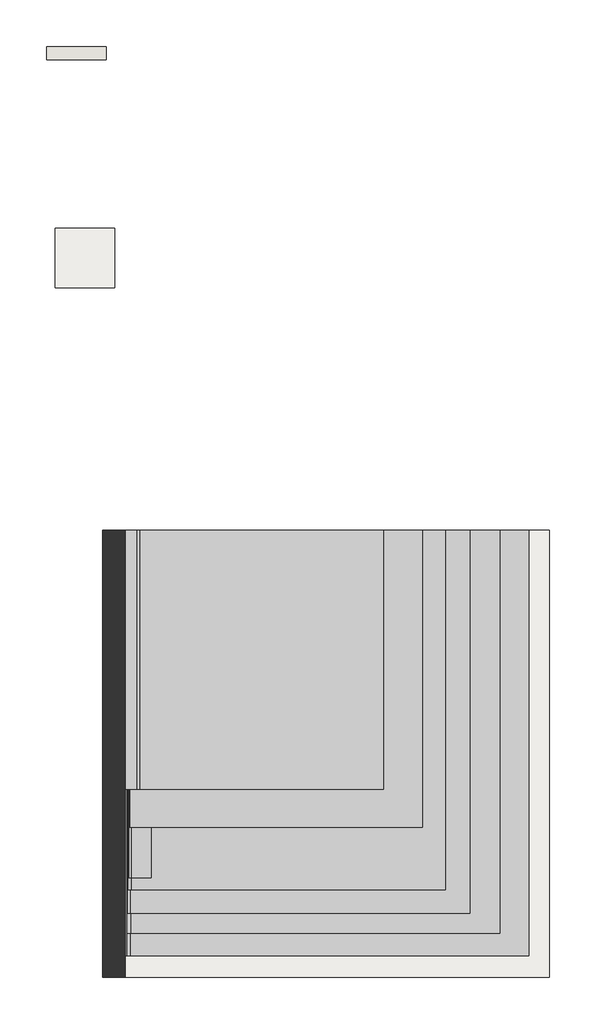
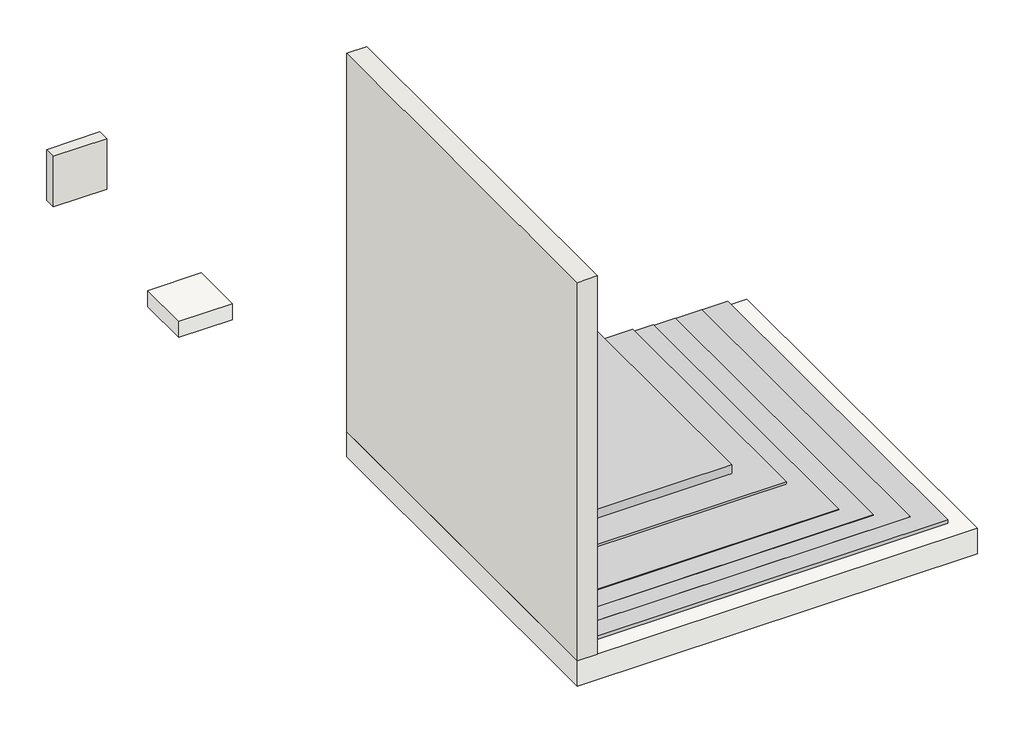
# One storey: 2 slabs, 2 walls, 1 proxy.
"""IFC4 building model written with IfcOpenShell, lengths in millimetres."""

import ifcopenshell
import ifcopenshell.guid

model = None  # the IFC model being written
_history = None  # IfcOwnerHistory: only IFC2X3 demands one
_inside = {}  # id of a spatial element -> (the spatial element, [elements in it])
_under = {}  # id of a project, library or spatial element -> (it, [spatial elements below it])
_declared = {}  # id of a project -> (the project, [libraries it declares])
_typed = {}  # id of a type object -> (the type object, [elements of that type])
_made_of = {}  # id of a material, layer set ... -> (it, [elements and type objects made of it])


def new_model(schema):
    """Start an empty IFC model of exactly this schema.

    Asked for "IFC4X3", IfcOpenShell would pick the latest addendum, in which some entities
    have other attributes; the version numbers below select the first issue.
    IFC2X3 requires an IfcOwnerHistory on every rooted entity: one is made here for all.
    """
    global model, _history
    if schema == "IFC4X3":
        model = ifcopenshell.file(schema_version=(4, 3, 0, 0))
    else:
        model = ifcopenshell.file(schema=schema)
    _inside.clear()
    _under.clear()
    _declared.clear()
    _typed.clear()
    _made_of.clear()
    _history = None
    if model.schema == "IFC2X3":
        org = make("IfcOrganization", Name="unknown")
        user = make(
            "IfcPersonAndOrganization",
            ThePerson=make("IfcPerson", FamilyName="unknown"),
            TheOrganization=org,
        )
        app = make(
            "IfcApplication",
            ApplicationDeveloper=org,
            Version="unknown",
            ApplicationFullName="unknown",
            ApplicationIdentifier="unknown",
        )
        _history = make(
            "IfcOwnerHistory",
            OwningUser=user,
            OwningApplication=app,
            ChangeAction="ADDED",
            CreationDate=0,
        )
    return model


def make(cls, **values):
    """One entity of the class cls with the attributes given. An attribute that is None is left unset."""
    return model.create_entity(
        cls, **{name: value for name, value in values.items() if value is not None}
    )


def rooted(cls, **values):
    """An entity with a GlobalId (a new one), such as an element, a storey or a relation."""
    return make(cls, GlobalId=ifcopenshell.guid.new(), OwnerHistory=_history, **values)


def si_unit(unit_type, name, prefix=None):
    """IfcSIUnit, for example si_unit("LENGTHUNIT", "METRE", prefix="MILLI")."""
    return make("IfcSIUnit", UnitType=unit_type, Prefix=prefix, Name=name)


def assignment(units):
    """IfcUnitAssignment: the units of a project."""
    return None if units is None else make("IfcUnitAssignment", Units=units)


def point(xyz):
    """IfcCartesianPoint."""
    return None if xyz is None else make("IfcCartesianPoint", Coordinates=xyz)


def direction(xyz):
    """IfcDirection."""
    return None if xyz is None else make("IfcDirection", DirectionRatios=xyz)


def frame(location, z_axis=None, x_axis=None):
    """IfcAxis2Placement3D, a coordinate frame: its origin and axes. An axis left out is left unset."""
    return make(
        "IfcAxis2Placement3D",
        Location=point(location),
        Axis=direction(z_axis),
        RefDirection=direction(x_axis),
    )


def frame_2d(location, x_axis=None):
    """IfcAxis2Placement2D, a coordinate frame in the plane: its origin and x axis."""
    return make(
        "IfcAxis2Placement2D", Location=point(location), RefDirection=direction(x_axis)
    )


def origin():
    """The frame at (0, 0, 0) with its axes left unset."""
    return frame((0.0, 0.0, 0.0))


def place(relative_to, where):
    """IfcLocalPlacement: puts the frame where relative to a parent placement (None: the world)."""
    return make(
        "IfcLocalPlacement", PlacementRelTo=relative_to, RelativePlacement=where
    )


def context(
    kind, dimensions, precision=None, world=None, true_north=None, identifier=None
):
    """IfcGeometricRepresentationContext, for example the 3D "Model" context."""
    return make(
        "IfcGeometricRepresentationContext",
        ContextIdentifier=identifier,
        ContextType=kind,
        CoordinateSpaceDimension=dimensions,
        Precision=precision,
        WorldCoordinateSystem=world,
        TrueNorth=true_north,
    )


def project(units=None, contexts=None):
    """IfcProject with its units and contexts."""
    return rooted(
        "IfcProject",
        Name="project",
        RepresentationContexts=contexts,
        UnitsInContext=assignment(units),
    )


def spatial(cls, under=None, at=None, **own):
    """A site, building, storey or space (cls), placed at a placement, below another one or the project."""
    s = rooted(cls, ObjectPlacement=at, **own)
    if under is not None:
        _under.setdefault(under.id(), (under, []))[1].append(s)
    return s


def polyline(points):
    """IfcPolyline through the points."""
    return make("IfcPolyline", Points=[point(p) for p in points])


def circle_curve(where, radius):
    """IfcCircle in the frame where."""
    return make("IfcCircle", Position=where, Radius=radius)


def trimmed(basis, trim1, trim2, sense, master):
    """IfcTrimmedCurve: the piece of a basis curve between two trims."""
    return make(
        "IfcTrimmedCurve",
        BasisCurve=basis,
        Trim1=trim1,
        Trim2=trim2,
        SenseAgreement=sense,
        MasterRepresentation=master,
    )


def segment(curve, same_sense, transition):
    """IfcCompositeCurveSegment."""
    return make(
        "IfcCompositeCurveSegment",
        Transition=transition,
        SameSense=same_sense,
        ParentCurve=curve,
    )


def composite_curve(segments, self_intersect=None):
    """IfcCompositeCurve: segments joined end to end."""
    return make("IfcCompositeCurve", Segments=segments, SelfIntersect=self_intersect)


def outline(outer, holes=None, kind="AREA"):
    """IfcArbitraryClosedProfileDef: a profile drawn as a closed curve; with holes, ...WithVoids."""
    if holes is None:
        return make("IfcArbitraryClosedProfileDef", ProfileType=kind, OuterCurve=outer)
    return make(
        "IfcArbitraryProfileDefWithVoids",
        ProfileType=kind,
        OuterCurve=outer,
        InnerCurves=holes,
    )


def extrude(swept, where, along, depth):
    """IfcExtrudedAreaSolid: the profile swept, set in the frame where, extruded along a direction by depth."""
    return make(
        "IfcExtrudedAreaSolid",
        SweptArea=swept,
        Position=where,
        ExtrudedDirection=direction(along),
        Depth=depth,
    )


def shape(context_of_items, identifier, shape_type, items):
    """IfcShapeRepresentation: the items that make up one representation, for example the "Body"."""
    return make(
        "IfcShapeRepresentation",
        ContextOfItems=context_of_items,
        RepresentationIdentifier=identifier,
        RepresentationType=shape_type,
        Items=items,
    )


def source(mapping_origin, context_of_items, identifier, shape_type, items):
    """IfcRepresentationMap: a shape defined once, which mapped items show again and again."""
    return make(
        "IfcRepresentationMap",
        MappingOrigin=mapping_origin,
        MappedRepresentation=shape(context_of_items, identifier, shape_type, items),
    )


def transform(
    local_origin,
    x_axis=None,
    y_axis=None,
    z_axis=None,
    scale=None,
    scale2=None,
    scale3=None,
    uniform=True,
):
    """IfcCartesianTransformationOperator3D, or its non-uniform kind. x_axis, y_axis, z_axis: its Axis1, 2, 3."""
    if uniform:
        return make(
            "IfcCartesianTransformationOperator3D",
            Axis1=direction(x_axis),
            Axis2=direction(y_axis),
            LocalOrigin=point(local_origin),
            Scale=scale,
            Axis3=direction(z_axis),
        )
    return make(
        "IfcCartesianTransformationOperator3DnonUniform",
        Axis1=direction(x_axis),
        Axis2=direction(y_axis),
        LocalOrigin=point(local_origin),
        Scale=scale,
        Axis3=direction(z_axis),
        Scale2=scale2,
        Scale3=scale3,
    )


def mapped(mapping_source, mapping_target):
    """IfcMappedItem: shows the shape of a source again, moved by a transform."""
    return make(
        "IfcMappedItem", MappingSource=mapping_source, MappingTarget=mapping_target
    )


def made_of(thing, what):
    """Note that an element or type object is made of a material, layer set ...; save() writes the relation."""
    if what is not None:
        _made_of.setdefault(what.id(), (what, []))[1].append(thing)
    return thing


def element(
    cls,
    number,
    at=None,
    inside=None,
    cuts=None,
    type_object=None,
    material=None,
    context=None,
    identifier="Body",
    shape_type=None,
    held_by="IfcProductDefinitionShape",
    body=None,
    shapes=None,
    **own,
):
    """One element of the class cls, such as IfcWall. Its Tag is "e" and its number.

    at: its placement. inside: the storey or other place that contains it. cuts: it is an
    opening in that element (IfcRelVoidsElement). A single representation is given by context,
    identifier, shape_type and body (its items); several are given by shapes. held_by: the class
    of the entity that holds the representations. save() writes the other relations.
    """
    e = rooted(cls, Tag="e%d" % number, ObjectPlacement=at, **own)
    if body is not None:
        shapes = [shape(context, identifier, shape_type, body)]
    if shapes is not None:
        e.Representation = make(held_by, Representations=shapes)
    if inside is not None:
        _inside.setdefault(inside.id(), (inside, []))[1].append(e)
    if cuts is not None:
        rooted(
            "IfcRelVoidsElement", RelatingBuildingElement=cuts, RelatedOpeningElement=e
        )
    if type_object is not None:
        _typed.setdefault(type_object.id(), (type_object, []))[1].append(e)
    return made_of(e, material)


def aggregate(whole, parts):
    """IfcRelAggregates: a whole, such as a stair, and the parts it consists of."""
    return rooted("IfcRelAggregates", RelatingObject=whole, RelatedObjects=parts)


def save(model, path):
    """Write the relations noted so far, then the file.

    IfcRelAggregates (storeys below a building ...), IfcRelContainedInSpatialStructure (elements
    in a storey), IfcRelDefinesByType, IfcRelAssociatesMaterial and IfcRelDeclares: one each for
    every whole, place, type object, material and project.
    """
    for whole, parts in _under.values():
        aggregate(whole, parts)
    for where, things in _inside.values():
        rooted(
            "IfcRelContainedInSpatialStructure",
            RelatedElements=things,
            RelatingStructure=where,
        )
    for kind, things in _typed.values():
        rooted("IfcRelDefinesByType", RelatedObjects=things, RelatingType=kind)
    for what, things in _made_of.values():
        rooted("IfcRelAssociatesMaterial", RelatedObjects=things, RelatingMaterial=what)
    for by, libraries in _declared.values():
        rooted("IfcRelDeclares", RelatingContext=by, RelatedDefinitions=libraries)
    model.write(path)


def generic_models_9ae79c3e(model_context):
    return source(origin(), model_context, "Body", "SweptSolid", [
        extrude(outline(polyline([(-351.9704105, 145.8700195), (-341.9704105, 145.8700195), (-341.9704105, -2708.2416892), (-351.9704105, -2708.2416892), (-351.9704105, 145.8700195)])), frame((0.0, 0.0, -2.523798), z_axis=(0.0, 0.0, 1.0), x_axis=(1.0, 0.0, 0.0)), (0.0, 0.0, 1.0), 475.2746515),
        extrude(outline(polyline([(-271.9704105, 145.8700195), (-251.9704105, 145.8700195), (-251.9704105, -1591.3980536), (-271.9704105, -1591.3980536), (-271.9704105, 145.8700195)])), frame((0.0, 0.0, 107.3018705), z_axis=(0.0, 0.0, 1.0), x_axis=(1.0, 0.0, 0.0)), (0.0, 0.0, 1.0), 20.0),
        extrude(outline(composite_curve([segment(polyline([(127.3018705, 1383.8408996), (127.3018705, -251.9704105), (107.3018705, -251.9704105), (107.3018705, -271.9704105), (127.3018705, -271.9704105), (1104.1279924, -271.9704105), (1104.1279924, -351.9704105), (472.7508535, -351.9704105), (472.7508535, -341.9704105), (464.711346, -333.930903), (455.5276938, -333.930903), (455.5276938, -336.9591004), (305.8779147, -336.9591004)]), True, "CONTINUOUS"), segment(trimmed(circle_curve(frame_2d((297.476202, -341.9120978)), 9.7529974), [point((305.8779147, -336.9591004))], [point((297.476202, -332.1591004))], True, "CARTESIAN"), True, "CONTINUOUS"), segment(polyline([(297.476202, -332.1591004), (170.751438, -332.1591004)]), True, "CONTINUOUS"), segment(trimmed(circle_curve(frame_2d((162.3497254, -337.1120978)), 9.7529974), [point((170.751438, -332.1591004))], [point((162.3497254, -327.3591004))], True, "CARTESIAN"), True, "CONTINUOUS"), segment(polyline([(162.3497254, -327.3591004), (57.3018705, -327.3591004), (57.3018705, 1383.8408996), (127.3018705, 1383.8408996)]), True, "CONTINUOUS")], self_intersect=False)), frame((0.0, -1591.3980536, 0.0), z_axis=(0.0, 1.0, 0.0), x_axis=(0.0, 0.0, 1.0)), (0.0, 0.0, 1.0), 1737.2680731),
        extrude(outline(composite_curve([segment(polyline([(57.3018705, 1643.8408996), (57.3018705, -327.3694237)]), True, "CONTINUOUS"), segment(trimmed(circle_curve(frame_2d((57.476202, -311.9704105)), 15.4), [point((57.3018705, -327.3694237))], [point((42.1018705, -311.0816306))], False, "CARTESIAN"), True, "CONTINUOUS"), segment(polyline([(42.1018705, -311.0816306), (42.1018705, -175.9704105), (37.3018705, -175.9704105), (37.3018705, 1643.8408996), (57.3018705, 1643.8408996)]), True, "CONTINUOUS")], self_intersect=False)), frame((0.0, -1847.0207684, 0.0), z_axis=(0.0, 1.0, 0.0), x_axis=(0.0, 0.0, 1.0)), (0.0, 0.0, 1.0), 1992.8907879),
        extrude(outline(polyline([(462.5018705, -336.9591004), (455.5276938, -336.9591004), (455.5276938, -333.930903), (464.711346, -333.930903), (472.7508535, -341.9704105), (467.5131806, -341.9704105), (462.5018705, -336.9591004)])), frame((0.0, -2191.1266924, 0.0), z_axis=(0.0, 1.0, 0.0), x_axis=(0.0, 0.0, 1.0)), (0.0, 0.0, 1.0), 2336.9967119),
        extrude(outline(composite_curve([segment(polyline([(162.3497254, -322.3591004), (56.8860974, -322.3591004), (56.8860974, -321.5591004), (162.3497254, -321.5591004)]), True, "CONTINUOUS"), segment(trimmed(circle_curve(frame_2d((162.3497254, -337.1120978)), 15.5529974), [point((162.3497254, -321.5591004))], [point((173.5866634, -326.3591004))], False, "CARTESIAN"), True, "CONTINUOUS"), segment(polyline([(173.5866634, -326.3591004), (297.476202, -326.3591004)]), True, "CONTINUOUS"), segment(trimmed(circle_curve(frame_2d((297.476202, -341.9120978)), 15.5529974), [point((297.476202, -326.3591004))], [point((308.71314, -331.1591004))], False, "CARTESIAN"), True, "CONTINUOUS"), segment(polyline([(308.71314, -331.1591004), (968.71314, -331.1591004)]), True, "CONTINUOUS"), segment(trimmed(circle_curve(frame_2d((957.8319889, -349.0899304)), 20.9741296), [point((968.71314, -331.1591004))], [point((975.4017315, -337.6348766))], False, "CARTESIAN"), True, "CONTINUOUS"), segment(polyline([(975.4017315, -337.6348766), (1098.9341396, -337.6348766), (1098.9341396, -338.4348766), (974.9628188, -338.4348766)]), True, "CONTINUOUS"), segment(trimmed(circle_curve(frame_2d((957.8319889, -349.0899304)), 20.1741296), [point((974.9628188, -338.4348766))], [point((968.4870426, -331.9591004))], True, "CARTESIAN"), True, "CONTINUOUS"), segment(polyline([(968.4870426, -331.9591004), (308.3660494, -331.9591004)]), True, "CONTINUOUS"), segment(trimmed(circle_curve(frame_2d((297.476202, -341.9120978)), 14.7529974), [point((308.3660494, -331.9591004))], [point((297.476202, -327.1591004))], True, "CARTESIAN"), True, "CONTINUOUS"), segment(polyline([(297.476202, -327.1591004), (173.2395727, -327.1591004)]), True, "CONTINUOUS"), segment(trimmed(circle_curve(frame_2d((162.3497254, -337.1120978)), 14.7529974), [point((173.2395727, -327.1591004))], [point((162.3497254, -322.3591004))], True, "CARTESIAN"), True, "CONTINUOUS")], self_intersect=False)), frame((0.0, -1847.0207684, 0.0), z_axis=(0.0, 1.0, 0.0), x_axis=(0.0, 0.0, 1.0)), (0.0, 0.0, 1.0), 1992.8907879),
        extrude(outline(composite_curve([segment(polyline([(38.1018705, -310.9727746), (38.1018705, -175.9704105), (42.1018705, -175.9704105), (42.1018705, -311.0816306)]), True, "CONTINUOUS"), segment(trimmed(circle_curve(frame_2d((57.476202, -311.9704105)), 15.4), [point((42.1018705, -311.0816306))], [point((56.8860974, -327.3591004))], True, "CARTESIAN"), True, "CONTINUOUS"), segment(polyline([(56.8860974, -327.3591004), (162.3497254, -327.3591004)]), True, "CONTINUOUS"), segment(trimmed(circle_curve(frame_2d((162.3497254, -337.1120978)), 9.7529974), [point((162.3497254, -327.3591004))], [point((170.751438, -332.1591004))], False, "CARTESIAN"), True, "CONTINUOUS"), segment(polyline([(170.751438, -332.1591004), (297.476202, -332.1591004)]), True, "CONTINUOUS"), segment(trimmed(circle_curve(frame_2d((297.476202, -341.9120978)), 9.7529974), [point((297.476202, -332.1591004))], [point((305.8779147, -336.9591004))], False, "CARTESIAN"), True, "CONTINUOUS"), segment(polyline([(305.8779147, -336.9591004), (462.5018705, -336.9591004), (466.5018705, -340.9591004), (305.9344646, -340.9591004)]), True, "CONTINUOUS"), segment(trimmed(circle_curve(frame_2d((305.9344646, -336.7879323)), 4.1711681), [point((305.9344646, -340.9591004))], [point((302.1717762, -338.5881601))], False, "CARTESIAN"), True, "CONTINUOUS"), segment(trimmed(circle_curve(frame_2d((297.476202, -341.9120978)), 5.7529974), [point((302.1717762, -338.5881601))], [point((297.476202, -336.1591004))], True, "CARTESIAN"), True, "CONTINUOUS"), segment(polyline([(297.476202, -336.1591004), (170.8079879, -336.1591004)]), True, "CONTINUOUS"), segment(trimmed(circle_curve(frame_2d((170.8079879, -331.9879323)), 4.1711681), [point((170.8079879, -336.1591004))], [point((167.0452996, -333.7881601))], False, "CARTESIAN"), True, "CONTINUOUS"), segment(trimmed(circle_curve(frame_2d((162.3497254, -337.1120978)), 5.7529974), [point((167.0452996, -333.7881601))], [point((162.3497254, -331.3591004))], True, "CARTESIAN"), True, "CONTINUOUS"), segment(polyline([(162.3497254, -331.3591004), (56.8138545, -331.3591004)]), True, "CONTINUOUS"), segment(trimmed(circle_curve(frame_2d((57.476202, -311.9704105)), 19.4), [point((56.8138545, -331.3591004))], [point((38.1018705, -310.9727746))], False, "CARTESIAN"), True, "CONTINUOUS")], self_intersect=False)), frame((0.0, -2184.7269109, 0.0), z_axis=(0.0, 1.0, 0.0), x_axis=(0.0, 0.0, 1.0)), (0.0, 0.0, 1.0), 2330.5969304),
        extrude(outline(composite_curve([segment(polyline([(-311.9704105, 27.476202), (2358.0295895, 27.476202), (2358.0295895, -2.523798), (-341.9704105, -2.523798), (-341.9704105, 57.476202)]), True, "CONTINUOUS"), segment(trimmed(circle_curve(frame_2d((-311.9704105, 57.476202)), 30.0), [point((-341.9704105, 57.476202))], [point((-311.9704105, 27.476202))], True, "CARTESIAN"), True, "CONTINUOUS")], self_intersect=False)), frame((0.0, 145.8700195, 0.0), z_axis=(0.0, -1.0, 0.0), x_axis=(1.0, 0.0, 0.0)), (0.0, 0.0, 1.0), 2854.1117086),
        extrude(outline(composite_curve([segment(polyline([(56.6663512, -340.9591004), (466.5054998, -340.9591004), (466.5054998, -341.9704105), (57.476202, -341.9704105)]), True, "CONTINUOUS"), segment(trimmed(circle_curve(frame_2d((57.476202, -311.9704105)), 30.0), [point((57.476202, -341.9704105))], [point((27.476202, -311.9704105))], False, "CARTESIAN"), True, "CONTINUOUS"), segment(polyline([(27.476202, -311.9704105), (27.476202, 2163.8408996), (28.5018705, 2163.8408996), (28.5018705, -313.1902924)]), True, "CONTINUOUS"), segment(trimmed(circle_curve(frame_2d((57.476202, -311.9704105)), 29.0), [point((28.5018705, -313.1902924))], [point((56.6663512, -340.9591004))], True, "CARTESIAN"), True, "CONTINUOUS")], self_intersect=False)), frame((0.0, -2558.7854434, 0.0), z_axis=(0.0, 1.0, 0.0), x_axis=(0.0, 0.0, 1.0)), (0.0, 0.0, 1.0), 2704.6554629),
        extrude(outline(composite_curve([segment(polyline([(170.8079879, -336.9591004), (297.476202, -336.9591004), (301.476202, -340.9591004), (170.8079879, -340.9591004)]), True, "CONTINUOUS"), segment(trimmed(circle_curve(frame_2d((170.8079879, -331.9879323)), 8.9711681), [point((170.8079879, -340.9591004))], [point((163.2638031, -336.8425314))], False, "CARTESIAN"), True, "CONTINUOUS"), segment(trimmed(circle_curve(frame_2d((162.3497254, -337.1120978)), 0.9529974), [point((163.2638031, -336.8425314))], [point((162.3497254, -336.1591004))], True, "CARTESIAN"), True, "CONTINUOUS"), segment(polyline([(162.3497254, -336.1591004), (56.7364174, -336.1591004)]), True, "CONTINUOUS"), segment(trimmed(circle_curve(frame_2d((57.476202, -311.9704105)), 24.2), [point((56.7364174, -336.1591004))], [point((33.3018705, -313.084724))], False, "CARTESIAN"), True, "CONTINUOUS"), segment(polyline([(33.3018705, -313.084724), (33.3018705, 1799.0014313), (37.3018705, 1799.0014313), (37.3018705, -310.9523993)]), True, "CONTINUOUS"), segment(trimmed(circle_curve(frame_2d((57.476202, -311.9704105)), 20.2), [point((37.3018705, -310.9523993))], [point((56.8003319, -332.1591004))], True, "CARTESIAN"), True, "CONTINUOUS"), segment(polyline([(56.8003319, -332.1591004), (162.3497254, -332.1591004)]), True, "CONTINUOUS"), segment(trimmed(circle_curve(frame_2d((162.3497254, -337.1120978)), 4.9529974), [point((162.3497254, -332.1591004))], [point((166.355889, -334.1995668))], False, "CARTESIAN"), True, "CONTINUOUS"), segment(trimmed(circle_curve(frame_2d((170.8079879, -331.9879323)), 4.9711681), [point((166.355889, -334.1995668))], [point((170.8079879, -336.9591004))], True, "CARTESIAN"), True, "CONTINUOUS")], self_intersect=False)), frame((0.0, -2265.2015055, 0.0), z_axis=(0.0, 1.0, 0.0), x_axis=(0.0, 0.0, 1.0)), (0.0, 0.0, 1.0), 2411.071525),
        extrude(outline(composite_curve([segment(polyline([(56.7093919, -337.9591004), (163.5018705, -337.9591004), (166.5018705, -340.9591004), (56.6663512, -340.9591004)]), True, "CONTINUOUS"), segment(trimmed(circle_curve(frame_2d((57.476202, -311.9704105)), 29.0), [point((56.6663512, -340.9591004))], [point((28.5018705, -313.1902924))], False, "CARTESIAN"), True, "CONTINUOUS"), segment(polyline([(28.5018705, -313.1902924), (28.5018705, 1963.8408996), (31.5018705, 1963.8408996), (31.5018705, -313.1254434)]), True, "CONTINUOUS"), segment(trimmed(circle_curve(frame_2d((57.476202, -311.9704105)), 26.0), [point((31.5018705, -313.1254434))], [point((56.7093919, -337.9591004))], True, "CARTESIAN"), True, "CONTINUOUS")], self_intersect=False)), frame((0.0, -2425.100387, 0.0), z_axis=(0.0, 1.0, 0.0), x_axis=(0.0, 0.0, 1.0)), (0.0, 0.0, 1.0), 2570.9704065),
    ])


model = new_model("IFC4")

# Units and contexts
model_context = context("Model", 3, world=origin())
ifc_project = project(units=[si_unit("LENGTHUNIT", "METRE", prefix="MILLI")], contexts=[model_context])

# Site, building, storey
site = spatial("IfcSite", under=ifc_project)
building = spatial("IfcBuilding", under=site)
storey = spatial("IfcBuildingStorey", under=building, Name="ARQ Térreo", Elevation=-2.523798)

# Proxy
placement = place(None, origin())
generic_models_shape = generic_models_9ae79c3e(model_context)
element("IfcBuildingElementProxy", 1, Name="IMPER:IMPER:433934 : IMPER:IMPER:433934", ObjectType="IMPER:IMPER:433934 : IMPER:IMPER:433934", at=placement, inside=storey, context=model_context, shape_type="MappedRepresentation", body=[
    mapped(generic_models_shape, transform((0.0, 0.0, 0.0), x_axis=(1.0, 0.0, 0.0), y_axis=(0.0, 1.0, 0.0), z_axis=(0.0, 0.0, 1.0))),
])

# Slabs
element("IfcSlab", 2, ObjectType="IMPH_T4PP+TEXTRA4PP", at=placement, inside=storey, context=model_context, shape_type="SweptSolid", body=[
    extrude(outline(polyline([(-820.840814, 2172.6753305), (-420.840814, 2172.6753305), (-420.840814, 1772.6753305), (-820.840814, 1772.6753305), (-820.840814, 2172.6753305)])), frame((0.0, 0.0, -131.523798), z_axis=(0.0, 0.0, 1.0), x_axis=(1.0, 0.0, 0.0)), (0.0, 0.0, 1.0), 129.0),
])
element("IfcSlab", 3, ObjectType="Piso:LAJE CONCRETO", at=placement, inside=storey, context=model_context, shape_type="SweptSolid", body=[
    extrude(outline(polyline([(-501.9704105, 145.8700195), (2498.0295895, 145.8700195), (2498.0295895, -2854.1299805), (-501.9704105, -2854.1299805), (-501.9704105, 145.8700195)])), frame((0.0, 0.0, -202.523798), z_axis=(0.0, 0.0, 1.0), x_axis=(1.0, 0.0, 0.0)), (0.0, 0.0, 1.0), 200.0),
])

# Walls
element("IfcWall", 4, ObjectType="Parede básica:Parede Concreto", at=placement, inside=storey, context=model_context, shape_type="SweptSolid", body=[
    extrude(outline(polyline([(-501.9704105, -2854.1299805), (-501.9704105, 145.8700195), (-351.9704105, 145.8700195), (-351.9704105, -2854.1299805), (-501.9704105, -2854.1299805)])), frame((0.0, 0.0, -2.523798), z_axis=(0.0, 0.0, 1.0), x_axis=(1.0, 0.0, 0.0)), (0.0, 0.0, 1.0), 3000.0),
])
element("IfcWall", 5, ObjectType="IMPV_T4PP+T4EXTRAPP", at=placement, inside=storey, context=model_context, shape_type="SweptSolid", body=[
    extrude(outline(polyline([(-878.4579685, 3390.3700195), (-478.4579685, 3390.3700195), (-478.4579685, 3301.3700195), (-878.4579685, 3301.3700195), (-878.4579685, 3390.3700195)])), frame((0.0, 0.0, -2.523798), z_axis=(0.0, 0.0, 1.0), x_axis=(1.0, 0.0, 0.0)), (0.0, 0.0, 1.0), 400.0),
])

save(model, "model.ifc")
